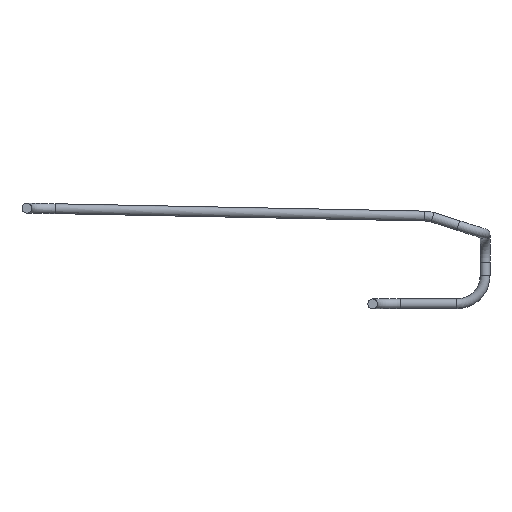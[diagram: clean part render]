
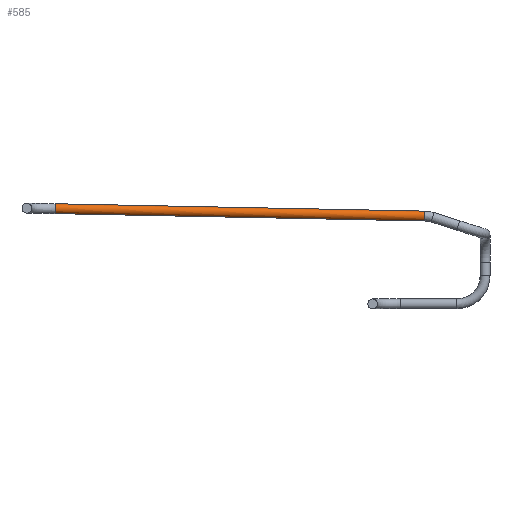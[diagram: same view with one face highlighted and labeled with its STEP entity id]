
A CAD part, left-side view. The second image highlights one B-rep face of the part: STEP entity #585.
In plain terms, the highlighted cylindrical face has radius 0.525 mm (diameter 1.05 mm), a full revolution.
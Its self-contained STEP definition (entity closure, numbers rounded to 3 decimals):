
#519 = TOROIDAL_SURFACE('',#520,3.,0.525);
#520 = AXIS2_PLACEMENT_3D('',#521,#522,#523);
#521 = CARTESIAN_POINT('',(-23.,-28.507,-10.791));
#522 = DIRECTION('',(-1.,0.,0.));
#523 = DIRECTION('',(0.,-0.302,0.953));
#536 = VERTEX_POINT('',#537);
#537 = CARTESIAN_POINT('',(-22.499,-28.564,
    -7.95));
#558 = EDGE_CURVE('',#536,#536,#559,.T.);
#559 = SURFACE_CURVE('',#560,(#565,#572),.PCURVE_S1.);
#560 = CIRCLE('',#561,0.525);
#561 = AXIS2_PLACEMENT_3D('',#562,#563,#564);
#562 = CARTESIAN_POINT('',(-23.,-28.567,-7.791));
#563 = DIRECTION('',(-0.,-1.,-0.02));
#564 = DIRECTION('',(0.,-0.02,1.));
#565 = PCURVE('',#519,#566);
#566 = DEFINITIONAL_REPRESENTATION('',(#567),#571);
#567 = LINE('',#568,#569);
#568 = CARTESIAN_POINT('',(0.287,0.));
#569 = VECTOR('',#570,1.);
#570 = DIRECTION('',(0.,1.));
#571 = ( GEOMETRIC_REPRESENTATION_CONTEXT(2) 
PARAMETRIC_REPRESENTATION_CONTEXT() REPRESENTATION_CONTEXT('2D SPACE',''
  ) );
#572 = PCURVE('',#573,#578);
#573 = CYLINDRICAL_SURFACE('',#574,0.525);
#574 = AXIS2_PLACEMENT_3D('',#575,#576,#577);
#575 = CARTESIAN_POINT('',(-23.,-28.567,-7.791));
#576 = DIRECTION('',(0.,1.,0.02));
#577 = DIRECTION('',(0.953,0.006,-0.302)
  );
#578 = DEFINITIONAL_REPRESENTATION('',(#579),#582);
#579 = B_SPLINE_CURVE_WITH_KNOTS('',1,(#580,#581),.UNSPECIFIED.,.F.,.F.,
  (2,2),(4.406,10.689),.PIECEWISE_BEZIER_KNOTS.);
#580 = CARTESIAN_POINT('',(6.283,0.));
#581 = CARTESIAN_POINT('',(0.,0.));
#582 = ( GEOMETRIC_REPRESENTATION_CONTEXT(2) 
PARAMETRIC_REPRESENTATION_CONTEXT() REPRESENTATION_CONTEXT('2D SPACE',''
  ) );
#585 = ADVANCED_FACE('',(#586),#573,.T.);
#586 = FACE_BOUND('',#587,.T.);
#587 = EDGE_LOOP('',(#588,#610,#636,#637));
#588 = ORIENTED_EDGE('',*,*,#589,.T.);
#589 = EDGE_CURVE('',#536,#590,#592,.T.);
#590 = VERTEX_POINT('',#591);
#591 = CARTESIAN_POINT('',(-22.499,10.754,
    -7.168));
#592 = SEAM_CURVE('',#593,(#597,#603),.PCURVE_S1.);
#593 = LINE('',#594,#595);
#594 = CARTESIAN_POINT('',(-22.499,-28.564,
    -7.95));
#595 = VECTOR('',#596,1.);
#596 = DIRECTION('',(0.,1.,0.02));
#597 = PCURVE('',#573,#598);
#598 = DEFINITIONAL_REPRESENTATION('',(#599),#602);
#599 = B_SPLINE_CURVE_WITH_KNOTS('',1,(#600,#601),.UNSPECIFIED.,.F.,.F.,
  (2,2),(0.,39.325),.PIECEWISE_BEZIER_KNOTS.);
#600 = CARTESIAN_POINT('',(6.283,0.));
#601 = CARTESIAN_POINT('',(6.283,39.325));
#602 = ( GEOMETRIC_REPRESENTATION_CONTEXT(2) 
PARAMETRIC_REPRESENTATION_CONTEXT() REPRESENTATION_CONTEXT('2D SPACE',''
  ) );
#603 = PCURVE('',#573,#604);
#604 = DEFINITIONAL_REPRESENTATION('',(#605),#609);
#605 = LINE('',#606,#607);
#606 = CARTESIAN_POINT('',(0.,0.));
#607 = VECTOR('',#608,1.);
#608 = DIRECTION('',(0.,1.));
#609 = ( GEOMETRIC_REPRESENTATION_CONTEXT(2) 
PARAMETRIC_REPRESENTATION_CONTEXT() REPRESENTATION_CONTEXT('2D SPACE',''
  ) );
#610 = ORIENTED_EDGE('',*,*,#611,.F.);
#611 = EDGE_CURVE('',#590,#590,#612,.T.);
#612 = SURFACE_CURVE('',#613,(#618,#625),.PCURVE_S1.);
#613 = CIRCLE('',#614,0.525);
#614 = AXIS2_PLACEMENT_3D('',#615,#616,#617);
#615 = CARTESIAN_POINT('',(-23.,10.751,-7.01));
#616 = DIRECTION('',(0.,1.,
    0.02));
#617 = DIRECTION('',(0.953,0.006,-0.302)
  );
#618 = PCURVE('',#573,#619);
#619 = DEFINITIONAL_REPRESENTATION('',(#620),#624);
#620 = LINE('',#621,#622);
#621 = CARTESIAN_POINT('',(0.,39.325));
#622 = VECTOR('',#623,1.);
#623 = DIRECTION('',(1.,0.));
#624 = ( GEOMETRIC_REPRESENTATION_CONTEXT(2) 
PARAMETRIC_REPRESENTATION_CONTEXT() REPRESENTATION_CONTEXT('2D SPACE',''
  ) );
#625 = PCURVE('',#626,#631);
#626 = TOROIDAL_SURFACE('',#627,3.,0.525);
#627 = AXIS2_PLACEMENT_3D('',#628,#629,#630);
#628 = CARTESIAN_POINT('',(-26.,10.751,-7.01));
#629 = DIRECTION('',(0.,-0.02,
    1.));
#630 = DIRECTION('',(1.,0.,0.));
#631 = DEFINITIONAL_REPRESENTATION('',(#632),#635);
#632 = B_SPLINE_CURVE_WITH_KNOTS('',1,(#633,#634),.UNSPECIFIED.,.F.,.F.,
  (2,2),(0.,6.283),.PIECEWISE_BEZIER_KNOTS.);
#633 = CARTESIAN_POINT('',(0.,12.26));
#634 = CARTESIAN_POINT('',(0.,5.977));
#635 = ( GEOMETRIC_REPRESENTATION_CONTEXT(2) 
PARAMETRIC_REPRESENTATION_CONTEXT() REPRESENTATION_CONTEXT('2D SPACE',''
  ) );
#636 = ORIENTED_EDGE('',*,*,#589,.F.);
#637 = ORIENTED_EDGE('',*,*,#558,.F.);
